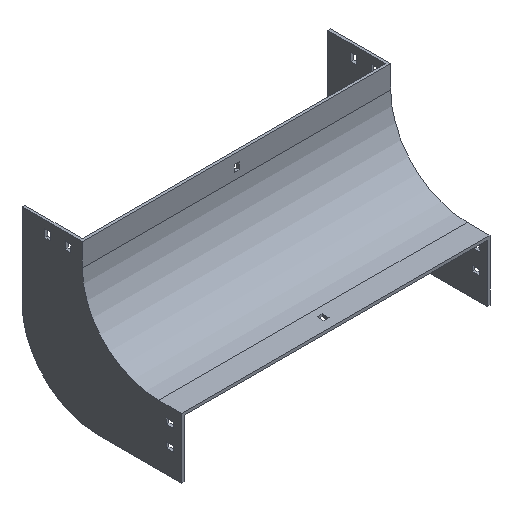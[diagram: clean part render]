
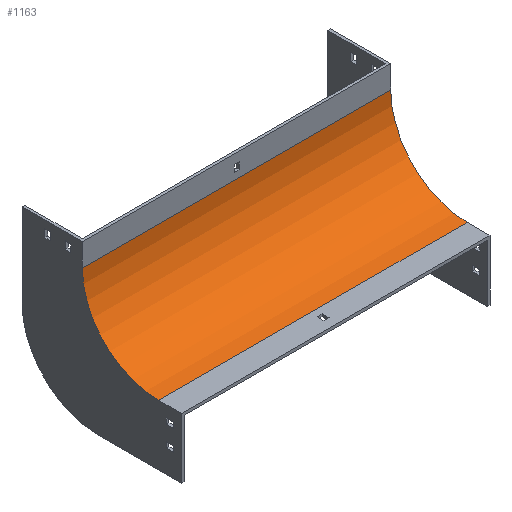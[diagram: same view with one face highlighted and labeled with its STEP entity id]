
A CAD part, isometric view. The second image highlights one B-rep face of the part: STEP entity #1163.
In plain terms, the highlighted cylindrical face has radius 100 mm (diameter 200 mm), a partial arc.
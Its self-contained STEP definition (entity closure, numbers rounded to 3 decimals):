
#15 = DIRECTION ( 'NONE',  ( 0., 0., 1. ) ) ;
#131 = CARTESIAN_POINT ( 'NONE',  ( 202., -100., -130. ) ) ;
#166 = DIRECTION ( 'NONE',  ( -1., 0., 0. ) ) ;
#244 = CIRCLE ( 'NONE', #1120, 100. ) ;
#294 = DIRECTION ( 'NONE',  ( -1., 0., 0. ) ) ;
#321 = CARTESIAN_POINT ( 'NONE',  ( -202., -100., -30. ) ) ;
#396 = EDGE_CURVE ( 'NONE', #1623, #1911, #1300, .T. ) ;
#568 = DIRECTION ( 'NONE',  ( -1., 0., 0. ) ) ;
#569 = CARTESIAN_POINT ( 'NONE',  ( -202., 0., -30. ) ) ;
#650 = ORIENTED_EDGE ( 'NONE', *, *, #1677, .F. ) ;
#676 = EDGE_CURVE ( 'NONE', #1080, #1911, #1361, .T. ) ;
#707 = ORIENTED_EDGE ( 'NONE', *, *, #1348, .T. ) ;
#740 = ORIENTED_EDGE ( 'NONE', *, *, #676, .F. ) ;
#915 = DIRECTION ( 'NONE',  ( -1., 0., 0. ) ) ;
#962 = AXIS2_PLACEMENT_3D ( 'NONE', #1509, #166, #15 ) ;
#987 = VECTOR ( 'NONE', #294, 1000. ) ;
#1063 = CARTESIAN_POINT ( 'NONE',  ( 202., -100., -130. ) ) ;
#1075 = DIRECTION ( 'NONE',  ( 0., 0., 1. ) ) ;
#1080 = VERTEX_POINT ( 'NONE', #131 ) ;
#1120 = AXIS2_PLACEMENT_3D ( 'NONE', #1931, #1605, #1761 ) ;
#1163 = ADVANCED_FACE ( 'NONE', ( #1656 ), #1947, .F. ) ;
#1185 = ORIENTED_EDGE ( 'NONE', *, *, #396, .T. ) ;
#1203 = VERTEX_POINT ( 'NONE', #1852 ) ;
#1300 = CIRCLE ( 'NONE', #1366, 100. ) ;
#1348 = EDGE_CURVE ( 'NONE', #1203, #1623, #1882, .T. ) ;
#1361 = LINE ( 'NONE', #1063, #987 ) ;
#1366 = AXIS2_PLACEMENT_3D ( 'NONE', #321, #915, #1075 ) ;
#1509 = CARTESIAN_POINT ( 'NONE',  ( 202., -100., -30. ) ) ;
#1604 = CARTESIAN_POINT ( 'NONE',  ( 202., 0., -30. ) ) ;
#1605 = DIRECTION ( 'NONE',  ( -1., 0., 0. ) ) ;
#1623 = VERTEX_POINT ( 'NONE', #569 ) ;
#1640 = EDGE_LOOP ( 'NONE', ( #1185, #740, #650, #707 ) ) ;
#1656 = FACE_OUTER_BOUND ( 'NONE', #1640, .T. ) ;
#1677 = EDGE_CURVE ( 'NONE', #1203, #1080, #244, .T. ) ;
#1761 = DIRECTION ( 'NONE',  ( 0., 0., 1. ) ) ;
#1852 = CARTESIAN_POINT ( 'NONE',  ( 202., 0., -30. ) ) ;
#1859 = CARTESIAN_POINT ( 'NONE',  ( -202., -100., -130. ) ) ;
#1873 = VECTOR ( 'NONE', #568, 1000. ) ;
#1882 = LINE ( 'NONE', #1604, #1873 ) ;
#1911 = VERTEX_POINT ( 'NONE', #1859 ) ;
#1931 = CARTESIAN_POINT ( 'NONE',  ( 202., -100., -30. ) ) ;
#1947 = CYLINDRICAL_SURFACE ( 'NONE', #962, 100. ) ;
